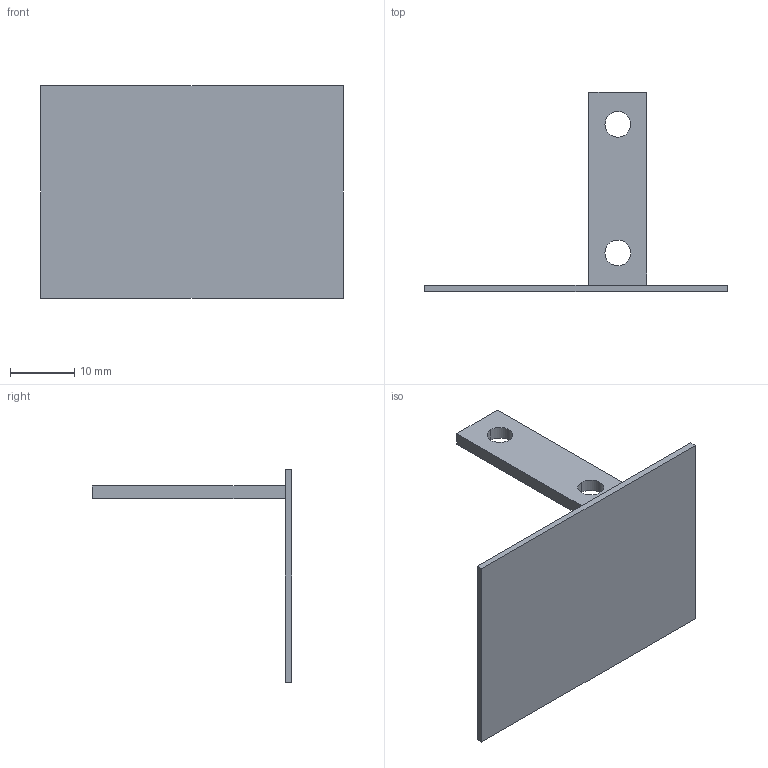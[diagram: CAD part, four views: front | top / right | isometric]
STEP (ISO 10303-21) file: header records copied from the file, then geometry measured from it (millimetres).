
FILE_DESCRIPTION(('STEP AP242'),'1');
FILE_NAME('OPO_65.082.45.stp','2026-01-30T20:54:02',(' '),(' '),'Spatial InterOp 3D',' ',' ');
FILE_SCHEMA(('AP242_MANAGED_MODEL_BASED_3D_ENGINEERING_MIM_LF {1 0 10303 442 1 1 4}'));
Length unit declared in the file: millimetre
Products named in the file (1): 1
Bounding box: 47 x 31 x 33 mm (x, y, z)
Volume: 2040.7 mm3; surface area: 3958 mm2
Topology: 2 solids, 2 shells, 58 faces, 148 edges, 98 vertices
Faces by surface type: plane 34, cylinder 24
Entity records: 2256 total; most frequent: DIRECTION 316, CARTESIAN_POINT 306, ORIENTED_EDGE 296, EDGE_CURVE 148, AXIS2_PLACEMENT_3D 108, LINE 100, VECTOR 100, VERTEX_POINT 98
